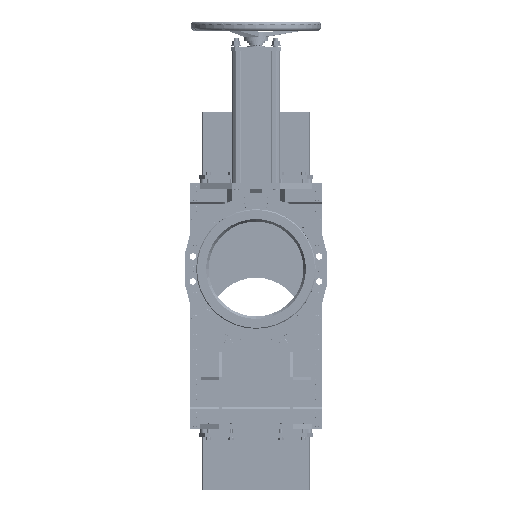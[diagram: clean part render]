
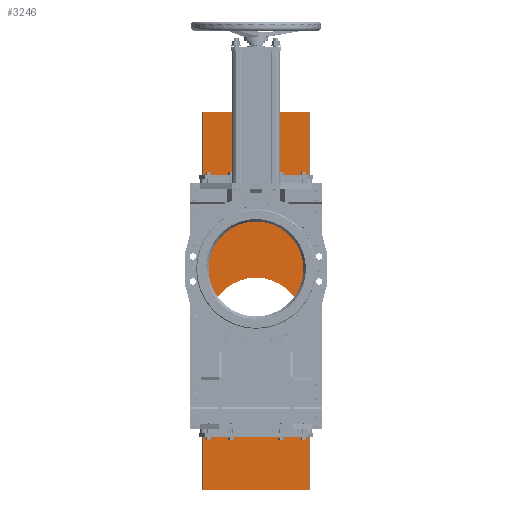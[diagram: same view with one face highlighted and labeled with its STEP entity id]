
A CAD part, left-side view. The second image highlights one B-rep face of the part: STEP entity #3246.
In plain terms, the highlighted planar face has unit normal (-1, 0, 0).
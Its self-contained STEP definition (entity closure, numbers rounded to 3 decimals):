
#3246=ADVANCED_FACE('',(#10512,#10513,#10514),#10515,.F.);
#10512=FACE_BOUND('',#19075,.T.);
#10513=FACE_BOUND('',#19076,.T.);
#10514=FACE_OUTER_BOUND('',#19077,.T.);
#10515=PLANE('',#19078);
#19075=EDGE_LOOP('',(#45661,#45662,#45663,#45664));
#19076=EDGE_LOOP('',(#45665,#45666));
#19077=EDGE_LOOP('',(#45667,#45668,#45669,#45670,#45671,#45672,#45673,#45674));
#19078=AXIS2_PLACEMENT_3D('',#45675,#45676,#45677);
#45661=ORIENTED_EDGE('',*,*,#60158,.T.);
#45662=ORIENTED_EDGE('',*,*,#60159,.T.);
#45663=ORIENTED_EDGE('',*,*,#60160,.F.);
#45664=ORIENTED_EDGE('',*,*,#58229,.F.);
#45665=ORIENTED_EDGE('',*,*,#52097,.T.);
#45666=ORIENTED_EDGE('',*,*,#60161,.T.);
#45667=ORIENTED_EDGE('',*,*,#55145,.T.);
#45668=ORIENTED_EDGE('',*,*,#59266,.T.);
#45669=ORIENTED_EDGE('',*,*,#55141,.T.);
#45670=ORIENTED_EDGE('',*,*,#56660,.T.);
#45671=ORIENTED_EDGE('',*,*,#55149,.T.);
#45672=ORIENTED_EDGE('',*,*,#51804,.F.);
#45673=ORIENTED_EDGE('',*,*,#59676,.F.);
#45674=ORIENTED_EDGE('',*,*,#52874,.T.);
#45675=CARTESIAN_POINT('',(-6.,-210.5,-885.));
#45676=DIRECTION('',(1.,0.,0.));
#45677=DIRECTION('',(0.,-1.,0.));
#51804=EDGE_CURVE('',#64999,#65001,#65002,.T.);
#52097=EDGE_CURVE('',#65587,#65584,#65588,.T.);
#52874=EDGE_CURVE('',#67122,#67120,#67123,.T.);
#55141=EDGE_CURVE('',#71476,#71474,#71477,.T.);
#55145=EDGE_CURVE('',#67120,#71482,#71484,.T.);
#55149=EDGE_CURVE('',#71470,#65001,#71490,.T.);
#56660=EDGE_CURVE('',#71474,#71470,#73875,.T.);
#58229=EDGE_CURVE('',#76172,#76174,#76175,.T.);
#59266=EDGE_CURVE('',#71482,#71476,#77540,.T.);
#59676=EDGE_CURVE('',#67122,#64999,#78062,.T.);
#60158=EDGE_CURVE('',#76172,#78647,#78648,.T.);
#60159=EDGE_CURVE('',#78647,#78649,#78650,.T.);
#60160=EDGE_CURVE('',#76174,#78649,#78651,.T.);
#60161=EDGE_CURVE('',#65584,#65587,#78652,.T.);
#64999=VERTEX_POINT('',#80435);
#65001=VERTEX_POINT('',#80437);
#65002=LINE('',#80438,#80439);
#65584=VERTEX_POINT('',#81218);
#65587=VERTEX_POINT('',#81222);
#65588=CIRCLE('',#81223,190.);
#67120=VERTEX_POINT('',#83468);
#67122=VERTEX_POINT('',#83470);
#67123=LINE('',#83471,#83472);
#71470=VERTEX_POINT('',#90801);
#71474=VERTEX_POINT('',#90807);
#71476=VERTEX_POINT('',#90810);
#71477=LINE('',#90811,#90812);
#71482=VERTEX_POINT('',#90819);
#71484=LINE('',#90822,#90823);
#71490=LINE('',#90830,#90831);
#73875=LINE('',#96793,#96794);
#76172=VERTEX_POINT('',#102262);
#76174=VERTEX_POINT('',#102265);
#76175=LINE('',#102266,#102267);
#77540=LINE('',#105916,#105917);
#78062=LINE('',#107380,#107381);
#78647=VERTEX_POINT('',#108789);
#78648=LINE('',#108790,#108791);
#78649=VERTEX_POINT('',#108792);
#78650=LINE('',#108793,#108794);
#78651=LINE('',#108795,#108796);
#78652=CIRCLE('',#108797,190.);
#80435=CARTESIAN_POINT('',(-6.,210.5,-885.));
#80437=CARTESIAN_POINT('',(-6.,210.5,630.));
#80438=CARTESIAN_POINT('',(-6.,210.5,-885.));
#80439=VECTOR('',#111782,1000.);
#81218=CARTESIAN_POINT('',(-6.,-190.,-225.));
#81222=CARTESIAN_POINT('',(-6.,190.,-225.));
#81223=AXIS2_PLACEMENT_3D('',#112364,#112365,#112366);
#83468=CARTESIAN_POINT('',(-6.,-210.5,630.));
#83470=CARTESIAN_POINT('',(-6.,-210.5,-885.));
#83471=CARTESIAN_POINT('',(-6.,-210.5,-885.));
#83472=VECTOR('',#113824,1000.);
#90801=CARTESIAN_POINT('',(-6.,80.,630.));
#90807=CARTESIAN_POINT('',(-6.,36.,630.));
#90810=CARTESIAN_POINT('',(-6.,-36.,630.));
#90811=CARTESIAN_POINT('',(-6.,-210.5,630.));
#90812=VECTOR('',#117781,1000.);
#90819=CARTESIAN_POINT('',(-6.,-80.,630.));
#90822=CARTESIAN_POINT('',(-6.,-210.5,630.));
#90823=VECTOR('',#117785,1000.);
#90830=CARTESIAN_POINT('',(-6.,-210.5,630.));
#90831=VECTOR('',#117793,1000.);
#96793=CARTESIAN_POINT('',(-6.,-210.5,630.));
#96794=VECTOR('',#119810,1000.);
#102262=CARTESIAN_POINT('',(-6.,-80.,629.));
#102265=CARTESIAN_POINT('',(-6.,80.,629.));
#102266=CARTESIAN_POINT('',(-6.,-80.,629.));
#102267=VECTOR('',#122159,1000.);
#105916=CARTESIAN_POINT('',(-6.,-210.5,630.));
#105917=VECTOR('',#123710,1000.);
#107380=CARTESIAN_POINT('',(-6.,-210.5,-885.));
#107381=VECTOR('',#124259,1000.);
#108789=CARTESIAN_POINT('',(-6.,-80.,560.));
#108790=CARTESIAN_POINT('',(-6.,-80.,629.));
#108791=VECTOR('',#125023,1000.);
#108792=CARTESIAN_POINT('',(-6.,80.,560.));
#108793=CARTESIAN_POINT('',(-6.,-80.,560.));
#108794=VECTOR('',#125024,1000.);
#108795=CARTESIAN_POINT('',(-6.,80.,629.));
#108796=VECTOR('',#125025,1000.);
#108797=AXIS2_PLACEMENT_3D('',#125026,#125027,#125028);
#111782=DIRECTION('',(0.,0.,1.));
#112364=CARTESIAN_POINT('',(-6.,0.,-225.));
#112365=DIRECTION('',(1.,0.,0.));
#112366=DIRECTION('',(0.,1.,0.));
#113824=DIRECTION('',(0.,0.,1.));
#117781=DIRECTION('',(0.,1.,0.));
#117785=DIRECTION('',(0.,1.,0.));
#117793=DIRECTION('',(0.,1.,0.));
#119810=DIRECTION('',(0.,1.,0.));
#122159=DIRECTION('',(0.,1.,0.));
#123710=DIRECTION('',(0.,1.,0.));
#124259=DIRECTION('',(0.,1.,0.));
#125023=DIRECTION('',(0.,0.,-1.));
#125024=DIRECTION('',(0.,1.,0.));
#125025=DIRECTION('',(0.,0.,-1.));
#125026=CARTESIAN_POINT('',(-6.,0.,-225.));
#125027=DIRECTION('',(1.,0.,0.));
#125028=DIRECTION('',(0.,1.,0.));
